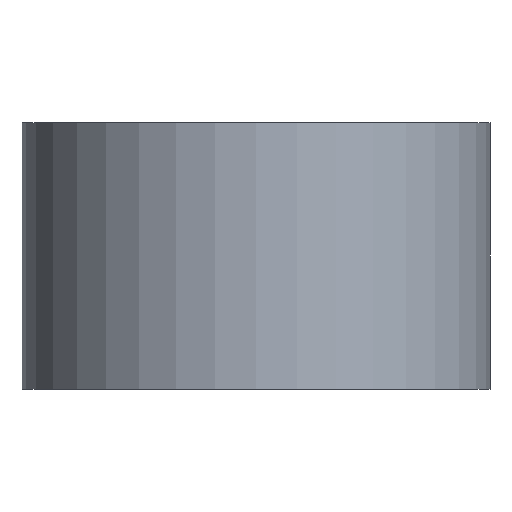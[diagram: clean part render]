
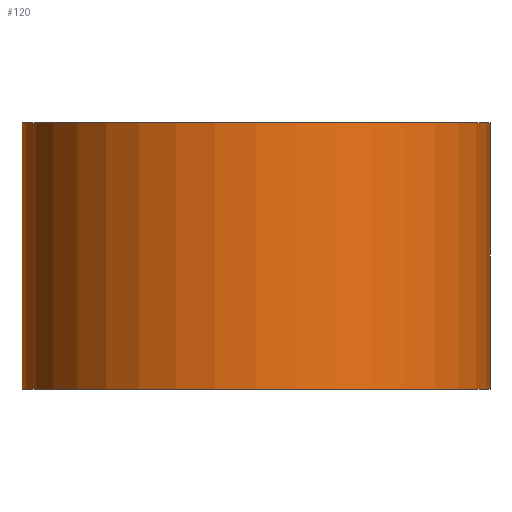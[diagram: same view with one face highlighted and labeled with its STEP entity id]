
A CAD part, front view. The second image highlights one B-rep face of the part: STEP entity #120.
In plain terms, the highlighted cylindrical face has radius 107 mm (diameter 214 mm), a partial arc.
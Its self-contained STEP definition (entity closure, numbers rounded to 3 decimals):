
#64=CARTESIAN_POINT('Axis2P3D Location',(0.,0.,61.)) ;
#69=CARTESIAN_POINT('Line Origine',(107.,0.,61.)) ;
#73=CARTESIAN_POINT('Vertex',(107.,0.,0.)) ;
#75=CARTESIAN_POINT('Vertex',(107.,0.,122.)) ;
#82=CARTESIAN_POINT('Vertex',(-107.,0.,0.)) ;
#85=CARTESIAN_POINT('Line Origine',(-107.,0.,61.)) ;
#89=CARTESIAN_POINT('Vertex',(-107.,0.,122.)) ;
#104=CARTESIAN_POINT('Axis2P3D Location',(0.,0.,0.)) ;
#109=CARTESIAN_POINT('Axis2P3D Location',(0.,0.,122.)) ;
#65=DIRECTION('Axis2P3D Direction',(0.,0.,1.)) ;
#66=DIRECTION('Axis2P3D XDirection',(1.,0.,0.)) ;
#70=DIRECTION('Vector Direction',(0.,0.,1.)) ;
#86=DIRECTION('Vector Direction',(0.,0.,1.)) ;
#105=DIRECTION('Axis2P3D Direction',(0.,0.,1.)) ;
#110=DIRECTION('Axis2P3D Direction',(0.,0.,1.)) ;
#67=AXIS2_PLACEMENT_3D('Cylinder Axis2P3D',#64,#65,#66) ;
#106=AXIS2_PLACEMENT_3D('Circle Axis2P3D',#104,#105,$) ;
#111=AXIS2_PLACEMENT_3D('Circle Axis2P3D',#109,#110,$) ;
#115=ORIENTED_EDGE('',*,*,#91,.F.) ;
#116=ORIENTED_EDGE('',*,*,#108,.T.) ;
#117=ORIENTED_EDGE('',*,*,#77,.T.) ;
#118=ORIENTED_EDGE('',*,*,#113,.F.) ;
#71=VECTOR('Line Direction',#70,1.) ;
#87=VECTOR('Line Direction',#86,1.) ;
#120=ADVANCED_FACE('PartBody',(#119),#68,.T.) ;
#107=CIRCLE('generated circle',#106,107.) ;
#112=CIRCLE('generated circle',#111,107.) ;
#68=CYLINDRICAL_SURFACE('generated cylinder',#67,107.) ;
#77=EDGE_CURVE('',#74,#76,#72,.T.) ;
#91=EDGE_CURVE('',#83,#90,#88,.T.) ;
#108=EDGE_CURVE('',#83,#74,#107,.T.) ;
#113=EDGE_CURVE('',#90,#76,#112,.T.) ;
#114=EDGE_LOOP('',(#115,#116,#117,#118)) ;
#119=FACE_OUTER_BOUND('',#114,.T.) ;
#72=LINE('Line',#69,#71) ;
#88=LINE('Line',#85,#87) ;
#74=VERTEX_POINT('',#73) ;
#76=VERTEX_POINT('',#75) ;
#83=VERTEX_POINT('',#82) ;
#90=VERTEX_POINT('',#89) ;
